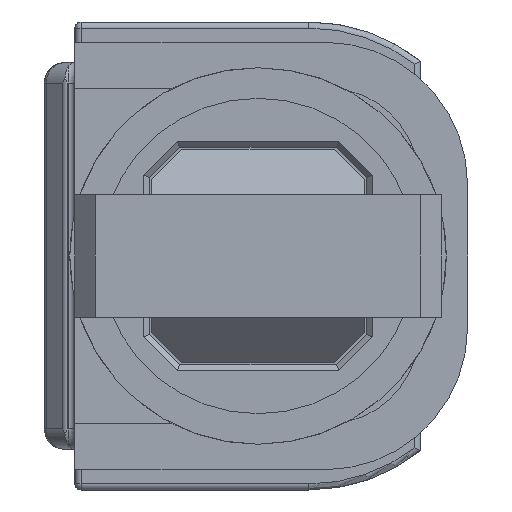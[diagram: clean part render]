
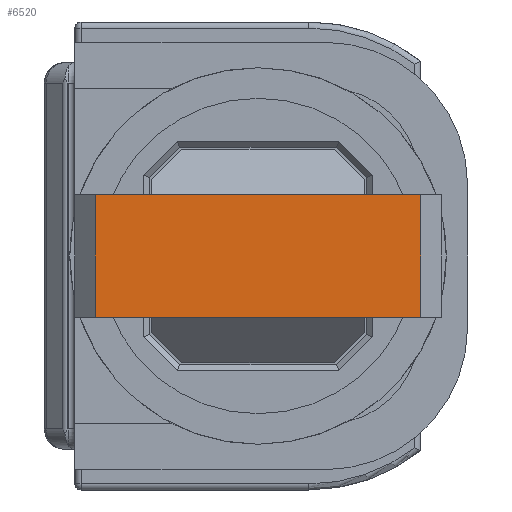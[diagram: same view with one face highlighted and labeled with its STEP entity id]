
A CAD part, front view. The second image highlights one B-rep face of the part: STEP entity #6520.
In plain terms, the highlighted planar face has unit normal (0, -1, 0).
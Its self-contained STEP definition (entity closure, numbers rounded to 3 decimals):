
#6004=DIRECTION('',(0.,0.,1.));
#6005=VECTOR('',#6004,16.);
#6006=CARTESIAN_POINT('',(3.,-69.5,-8.));
#6007=LINE('',#6006,#6005);
#6054=DIRECTION('',(1.,0.,0.));
#6055=VECTOR('',#6054,6.);
#6056=CARTESIAN_POINT('',(-3.,-69.5,8.));
#6057=LINE('',#6056,#6055);
#6058=DIRECTION('',(-1.,0.,0.));
#6059=VECTOR('',#6058,6.);
#6060=CARTESIAN_POINT('',(3.,-69.5,-8.));
#6061=LINE('',#6060,#6059);
#6062=DIRECTION('',(0.,0.,1.));
#6063=VECTOR('',#6062,16.);
#6064=CARTESIAN_POINT('',(-3.,-69.5,-8.));
#6065=LINE('',#6064,#6063);
#6203=CARTESIAN_POINT('',(3.,-69.5,8.));
#6205=VERTEX_POINT('',#6203);
#6206=CARTESIAN_POINT('',(-3.,-69.5,8.));
#6207=VERTEX_POINT('',#6206);
#6211=CARTESIAN_POINT('',(-3.,-69.5,-8.));
#6213=VERTEX_POINT('',#6211);
#6214=CARTESIAN_POINT('',(3.,-69.5,-8.));
#6215=VERTEX_POINT('',#6214);
#6508=CARTESIAN_POINT('',(-3.,-69.5,-9.));
#6509=DIRECTION('',(0.,-1.,0.));
#6510=DIRECTION('',(1.,0.,0.));
#6511=AXIS2_PLACEMENT_3D('',#6508,#6509,#6510);
#6512=PLANE('',#6511);
#6513=ORIENTED_EDGE('',*,*,#6500,.T.);
#6514=ORIENTED_EDGE('',*,*,#6426,.F.);
#6516=ORIENTED_EDGE('',*,*,#6515,.T.);
#6517=ORIENTED_EDGE('',*,*,#6459,.T.);
#6518=EDGE_LOOP('',(#6513,#6514,#6516,#6517));
#6519=FACE_OUTER_BOUND('',#6518,.F.);
#6520=ADVANCED_FACE('',(#6519),#6512,.T.);
#6426=EDGE_CURVE('',#6215,#6205,#6007,.T.);
#6459=EDGE_CURVE('',#6213,#6207,#6065,.T.);
#6500=EDGE_CURVE('',#6207,#6205,#6057,.T.);
#6515=EDGE_CURVE('',#6215,#6213,#6061,.T.);
